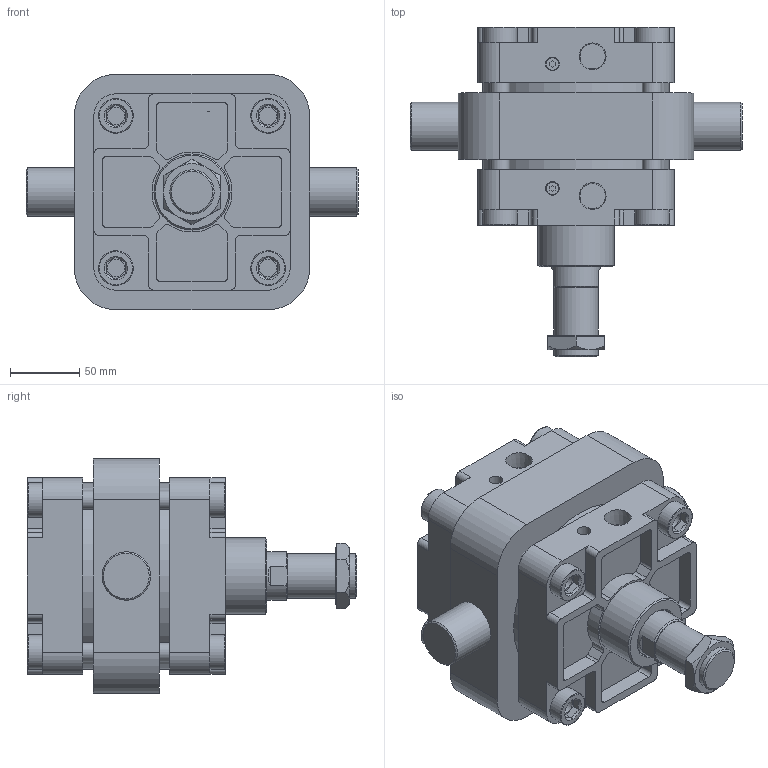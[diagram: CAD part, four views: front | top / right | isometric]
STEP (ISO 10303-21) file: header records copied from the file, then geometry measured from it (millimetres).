
FILE_DESCRIPTION(/* description */ ('Unknown'),/* implementation_level */ '2;1');
FILE_NAME(/* name */ 'WA125-0-TC',/* time_stamp */ '2026-07-17T16:59:21+08:00',/* author */ ('Unknown'),/* organization */ ('Unknown'),/* preprocessor_version */ 'ST-DEVELOPER v16.7',/* originating_system */ 'DEX',/* authorisation */ $);
FILE_SCHEMA (('CONFIG_CONTROL_DESIGN'));
Length unit declared in the file: millimetre
Products named in the file (8): WA125-0-TC; WA125_前; WA125_後5; WA125_ｾT∫ｮ｡; WA125_TC; WA125_¤ß¶b¬¡æ´»å¡žçµ„; M32-2.0P-10_螺; WA125_T帽牙
Assembly tree (10 placements, depth 2):
  WA125-0-TC
    WA125_前
    WA125_後5
    WA125_ｾT∫ｮ｡
    WA125_TC
    WA125_¤ß¶b¬¡æ´»å¡žçµ„
    M32-2.0P-10_螺
    WA125_T帽牙  x4
Bounding box: 240 x 238 x 170 mm (x, y, z)
Volume: 3054155.7 mm3; surface area: 423173.8 mm2
Topology: 10 solids, 10 shells, 411 faces, 1003 edges, 666 vertices
Faces by surface type: plane 228, cylinder 150, cone 25, torus 8
Full cylindrical faces by diameter (mm): 9 x2, 10 x2, 12.5 x12, 14 x4, 20 x8, 20.5 x8, 25 x8, 30 x1, 32 x1, 35 x3, 36 x1, 41 x1, 55 x1, 124.5 x1, 125 x3, 135 x1, 136 x1
Entity records: 11466 total; most frequent: CARTESIAN_POINT 1693, DIRECTION 1634, ORIENTED_EDGE 1452, EDGE_CURVE 726, AXIS2_PLACEMENT_3D 613, VERTEX_POINT 508, EDGE_LOOP 424, FACE_BOUND 424
